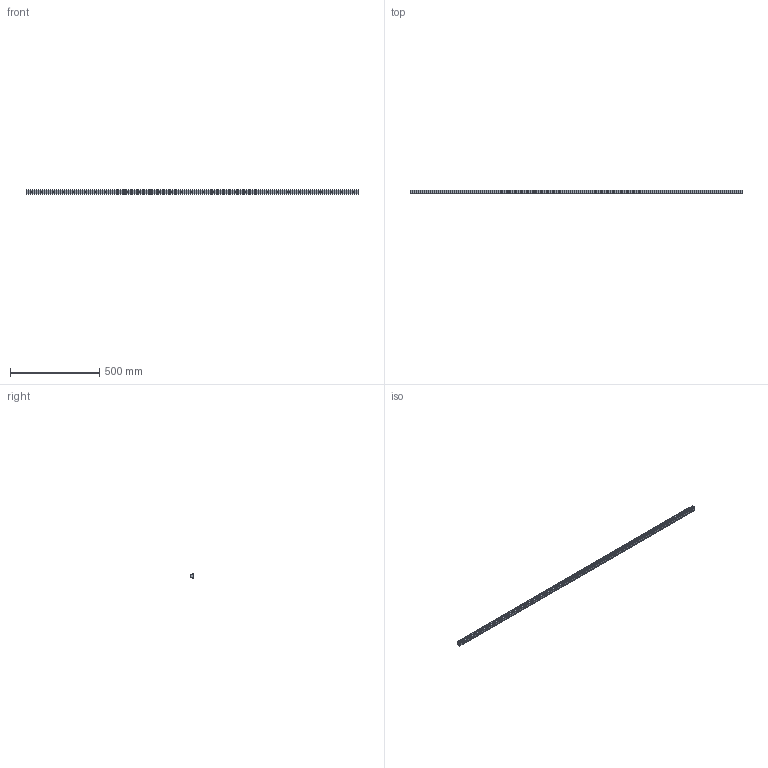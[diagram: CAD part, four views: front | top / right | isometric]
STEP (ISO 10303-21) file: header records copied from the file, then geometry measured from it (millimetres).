
FILE_DESCRIPTION (( 'STEP AP203' ), '1' );
FILE_NAME ('L1018.25R-1860.step', '2023-08-06T10:39:15', ( '' ), ( '' ), 'SwSTEP 2.0', 'SolidWorks 2019', '' );
FILE_SCHEMA (( 'CONFIG_CONTROL_DESIGN' ));
Length unit declared in the file: millimetre
Products named in the file (1): L1018.25R-1860
Bounding box: 1860 x 21.8 x 25 mm (x, y, z)
Volume: 773551.9 mm3; surface area: 185543.1 mm2
Topology: 1 solids, 1 shells, 308 faces, 701 edges, 395 vertices
Faces by surface type: cylinder 127, cone 124, plane 57
Entity records: 8252 total; most frequent: DIRECTION 1573, CARTESIAN_POINT 1343, ORIENTED_EDGE 1278, EDGE_CURVE 639, AXIS2_PLACEMENT_3D 625, VERTEX_POINT 395, EDGE_LOOP 370, VECTOR 323
